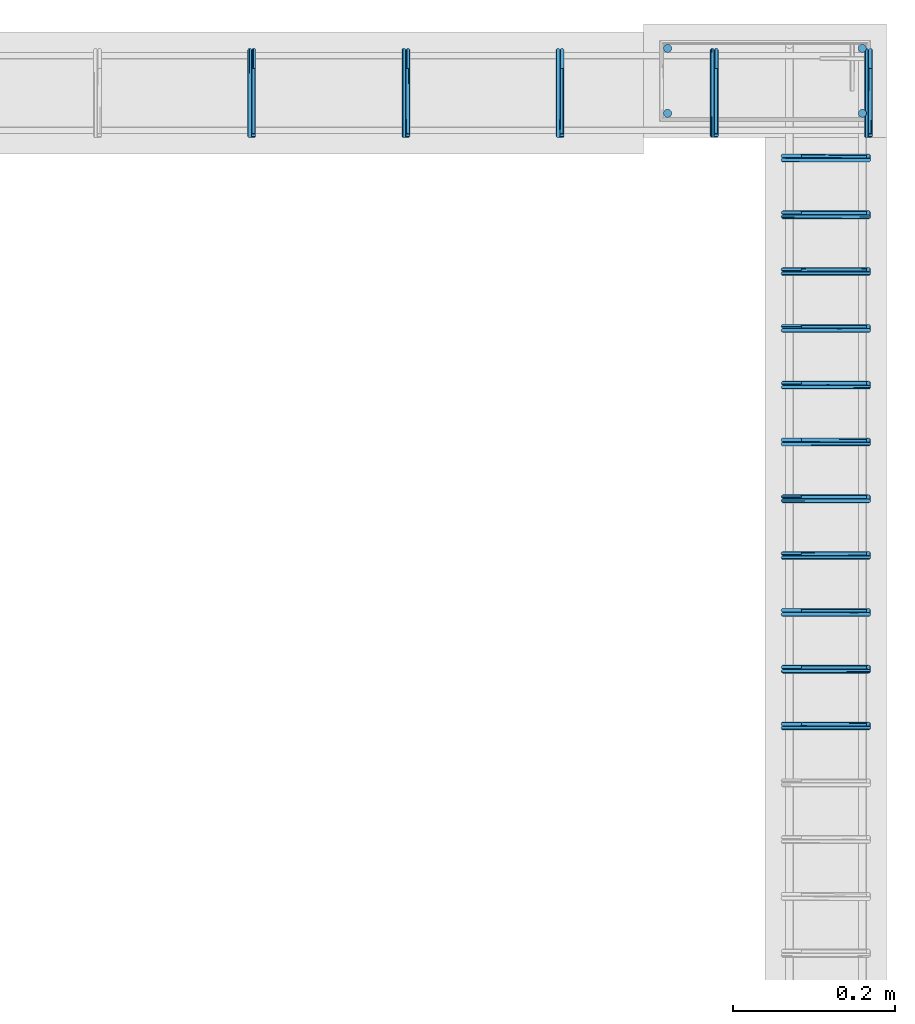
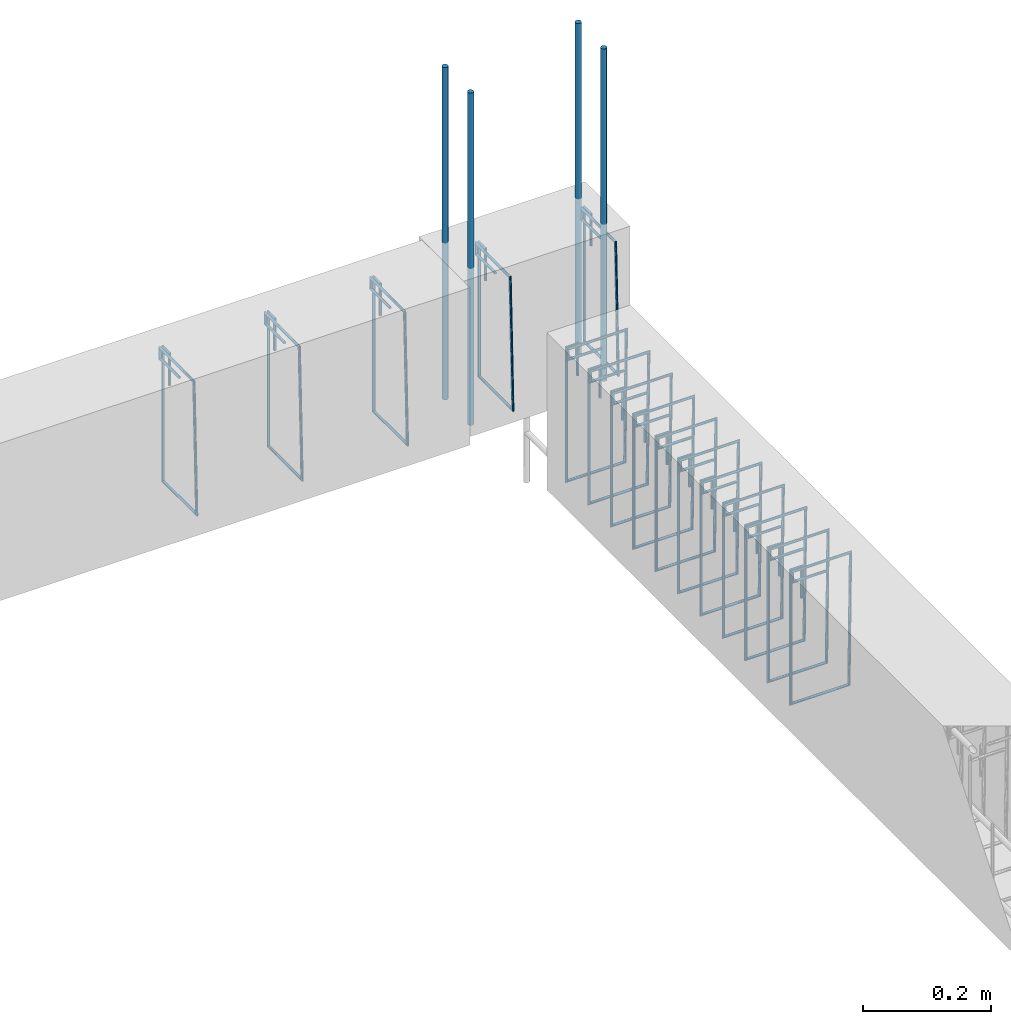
# One storey, part 150 of 150: 20 reinforcing bars.
"""IFC4 building model written with IfcOpenShell, lengths in centimetres."""

from ifc_helpers import new_model, entity, si_unit, derived_unit, frame, origin_with_axes, place, context, project, spatial, source, transform, mapped, element, save


model = new_model("IFC4")

# Units and contexts
model_context = context("Model", 3, precision=1e-05, world=origin_with_axes(), identifier="Body")
ifc_project = project(units=[si_unit("LENGTHUNIT", "METRE", prefix="CENTI"), si_unit("VOLUMEUNIT", "CUBIC_METRE"), si_unit("AREAUNIT", "SQUARE_METRE"), si_unit("POWERUNIT", "WATT"), si_unit("LUMINOUSFLUXUNIT", "LUMEN"), si_unit("ELECTRICCURRENTUNIT", "AMPERE"), si_unit("PRESSUREUNIT", "PASCAL", prefix="KILO"), si_unit("MASSUNIT", "GRAM", prefix="KILO"), si_unit("PLANEANGLEUNIT", "RADIAN"), derived_unit("VOLUMETRICFLOWRATEUNIT", [(si_unit("LENGTHUNIT", "METRE"), 3), (si_unit("TIMEUNIT", "SECOND"), -1)])], contexts=[model_context])

# Site, building, storey
site_placement = place(None, frame((-4000.0, 0.0, 0.0), z_axis=(0.0, 0.0, 1.0), x_axis=(1.0, 0.0, 0.0)))
site = spatial("IfcSite", under=ifc_project, at=site_placement, Name="PADRÃO")
building_placement = place(site_placement, frame((0.0, 0.0, -14.0)))
building = spatial("IfcBuilding", under=site, at=building_placement, Name="CRECHE PRÉ-ESCOLA TIPO 2")
placement = place(building_placement, origin_with_axes())
storey_placement = place(placement, frame((0.0, 0.0, 30.0), z_axis=(0.0, 0.0, 1.0), x_axis=(1.0, 0.0, 0.0)))
storey = spatial("IfcBuildingStorey", under=building, at=storey_placement, Name="VIGA BALDRAME", CompositionType="ELEMENT", Elevation=16.0)

# Reinforcing bars
shared_shape_1 = source(origin_with_axes(), model_context, "Body", "AdvancedSweptSolid", [
    entity("IfcSweptDiskSolid", entity("IfcCompositeCurve", [entity("IfcCompositeCurveSegment", "CONTINUOUS", True, entity("IfcPolyline", [entity("IfcCartesianPoint", [2.0, -6.0, 0.0]), entity("IfcCartesianPoint", [2.0, 0.0, 0.0])])), entity("IfcCompositeCurveSegment", "CONTINUOUS", True, entity("IfcPolyline", [entity("IfcCartesianPoint", [2.0, 0.0, 0.0]), entity("IfcCartesianPoint", [0.0, 0.0, 0.0])])), entity("IfcCompositeCurveSegment", "CONTINUOUS", True, entity("IfcPolyline", [entity("IfcCartesianPoint", [0.0, 0.0, 0.0]), entity("IfcCartesianPoint", [0.0, -25.5, 0.0])])), entity("IfcCompositeCurveSegment", "CONTINUOUS", True, entity("IfcPolyline", [entity("IfcCartesianPoint", [0.0, -25.5, 0.0]), entity("IfcCartesianPoint", [10.5, -25.5, 0.0])])), entity("IfcCompositeCurveSegment", "CONTINUOUS", True, entity("IfcPolyline", [entity("IfcCartesianPoint", [10.5, -25.5, 0.0]), entity("IfcCartesianPoint", [10.5, 0.0, 0.5])])), entity("IfcCompositeCurveSegment", "CONTINUOUS", True, entity("IfcPolyline", [entity("IfcCartesianPoint", [10.5, 0.0, 0.5]), entity("IfcCartesianPoint", [0.0, 0.0, 0.5])])), entity("IfcCompositeCurveSegment", "CONTINUOUS", True, entity("IfcPolyline", [entity("IfcCartesianPoint", [0.0, 0.0, 0.5]), entity("IfcCartesianPoint", [0.0, -2.0, 0.5])])), entity("IfcCompositeCurveSegment", "CONTINUOUS", True, entity("IfcPolyline", [entity("IfcCartesianPoint", [0.0, -2.0, 0.5]), entity("IfcCartesianPoint", [6.0, -2.0, 0.5])]))], False), 0.25),
])
for number, where, z_axis, x_axis, name in (
    (1, (3997.0, 4491.75, -2.25), (-1.0, 0.0, 0.0), (0.0, -1.0, 0.0), "V101 - Estribo"),
    (2, (3978.0, 4491.75, -2.25), (-1.0, 0.0, 0.0), (0.0, -1.0, 0.0), "V101 - Estribo"),
    (3, (3959.0, 4491.75, -2.25), (-1.0, 0.0, 0.0), (0.0, -1.0, 0.0), "V101 - Estribo"),
    (4, (3940.0, 4491.75, -2.25), (-1.0, 0.0, 0.0), (0.0, -1.0, 0.0), "V101 - Estribo"),
    (5, (3921.0, 4491.75, -2.25), (-1.0, 0.0, 0.0), (0.0, -1.0, 0.0), "V101 - Estribo"),
):
    element("IfcReinforcingBar", number, at=place(storey_placement, frame(where, z_axis=z_axis, x_axis=x_axis)), inside=storey, Name=name, BarLength=0.0, CrossSectionArea=1.9634954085e-05, NominalDiameter=0.5, PredefinedType="MAIN", context=model_context, shape_type="MappedRepresentation", body=[
        mapped(shared_shape_1, transform((0.0, 0.0, 0.0), scale=1.0)),
    ])
shared_shape_2 = source(origin_with_axes(), model_context, "Body", "AdvancedSweptSolid", [
    entity("IfcSweptDiskSolid", entity("IfcCompositeCurve", [entity("IfcCompositeCurveSegment", "CONTINUOUS", True, entity("IfcPolyline", [entity("IfcCartesianPoint", [2.0, -6.0, 0.0]), entity("IfcCartesianPoint", [2.0, 0.0, 0.0])])), entity("IfcCompositeCurveSegment", "CONTINUOUS", True, entity("IfcPolyline", [entity("IfcCartesianPoint", [2.0, 0.0, 0.0]), entity("IfcCartesianPoint", [0.0, 0.0, 0.0])])), entity("IfcCompositeCurveSegment", "CONTINUOUS", True, entity("IfcPolyline", [entity("IfcCartesianPoint", [0.0, 0.0, 0.0]), entity("IfcCartesianPoint", [0.0, -25.5, 0.0])])), entity("IfcCompositeCurveSegment", "CONTINUOUS", True, entity("IfcPolyline", [entity("IfcCartesianPoint", [0.0, -25.5, 0.0]), entity("IfcCartesianPoint", [10.5, -25.5, 0.0])])), entity("IfcCompositeCurveSegment", "CONTINUOUS", True, entity("IfcPolyline", [entity("IfcCartesianPoint", [10.5, -25.5, 0.0]), entity("IfcCartesianPoint", [10.5, 0.0, 0.5])])), entity("IfcCompositeCurveSegment", "CONTINUOUS", True, entity("IfcPolyline", [entity("IfcCartesianPoint", [10.5, 0.0, 0.5]), entity("IfcCartesianPoint", [0.0, 0.0, 0.5])])), entity("IfcCompositeCurveSegment", "CONTINUOUS", True, entity("IfcPolyline", [entity("IfcCartesianPoint", [0.0, 0.0, 0.5]), entity("IfcCartesianPoint", [0.0, -2.0, 0.5])])), entity("IfcCompositeCurveSegment", "CONTINUOUS", True, entity("IfcPolyline", [entity("IfcCartesianPoint", [0.0, -2.0, 0.5]), entity("IfcCartesianPoint", [6.0, -2.0, 0.5])]))], False), 0.25),
])
for number, where, z_axis, x_axis, name in (
    (6, (3986.25, 4478.75, -17.25), (0.0, -1.0, 0.0), (1.0, 0.0, 0.0), "V230 - Estribo"),
    (7, (3986.25, 4471.75, -17.25), (0.0, -1.0, 0.0), (1.0, 0.0, 0.0), "V230 - Estribo"),
    (8, (3986.25, 4464.75, -17.25), (0.0, -1.0, 0.0), (1.0, 0.0, 0.0), "V230 - Estribo"),
    (9, (3986.25, 4457.75, -17.25), (0.0, -1.0, 0.0), (1.0, 0.0, 0.0), "V230 - Estribo"),
    (10, (3986.25, 4450.75, -17.25), (0.0, -1.0, 0.0), (1.0, 0.0, 0.0), "V230 - Estribo"),
    (11, (3986.25, 4443.75, -17.25), (0.0, -1.0, 0.0), (1.0, 0.0, 0.0), "V230 - Estribo"),
    (12, (3986.25, 4436.75, -17.25), (0.0, -1.0, 0.0), (1.0, 0.0, 0.0), "V230 - Estribo"),
    (13, (3986.25, 4429.75, -17.25), (0.0, -1.0, 0.0), (1.0, 0.0, 0.0), "V230 - Estribo"),
    (14, (3986.25, 4422.75, -17.25), (0.0, -1.0, 0.0), (1.0, 0.0, 0.0), "V230 - Estribo"),
    (15, (3986.25, 4415.75, -17.25), (0.0, -1.0, 0.0), (1.0, 0.0, 0.0), "V230 - Estribo"),
    (16, (3986.25, 4408.75, -17.25), (0.0, -1.0, 0.0), (1.0, 0.0, 0.0), "V230 - Estribo"),
):
    element("IfcReinforcingBar", number, at=place(storey_placement, frame(where, z_axis=z_axis, x_axis=x_axis)), inside=storey, Name=name, BarLength=0.0, CrossSectionArea=1.9634954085e-05, NominalDiameter=0.5, PredefinedType="MAIN", context=model_context, shape_type="MappedRepresentation", body=[
        mapped(shared_shape_2, transform((0.0, 0.0, 0.0), scale=1.0)),
    ])
for number, where, z_axis, x_axis, name in (
    (17, (3996.0, 4484.0, 33.3573001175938), (0.0, 0.0, 1.0), (1.0, 0.0, 0.0), "P14 - Longitudinal"),
    (18, (3972.0, 4484.0, 33.3573001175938), (0.0, 0.0, 1.0), (1.0, 0.0, 0.0), "P14 - Longitudinal"),
    (19, (3972.0, 4492.0, 33.3573001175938), (0.0, 0.0, 1.0), (1.0, 0.0, 0.0), "P14 - Longitudinal"),
    (20, (3996.0, 4492.0, 33.3573001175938), (0.0, 0.0, 1.0), (1.0, 0.0, 0.0), "P14 - Longitudinal"),
):
    element("IfcReinforcingBar", number, at=place(storey_placement, frame(where, z_axis=z_axis, x_axis=x_axis)), inside=storey, Name=name, BarLength=0.0, CrossSectionArea=7.853981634e-05, NominalDiameter=1.0, PredefinedType="MAIN", context=model_context, shape_type="AdvancedSweptSolid", body=[
        entity("IfcSweptDiskSolid", entity("IfcCompositeCurve", [entity("IfcCompositeCurveSegment", "CONTINUOUS", True, entity("IfcPolyline", [entity("IfcCartesianPoint", [0.0, 0.0, -63.3573001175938]), entity("IfcCartesianPoint", [0.0, 0.0, 0.0])]))], False), 0.5),
    ])

save(model, "model.ifc")
